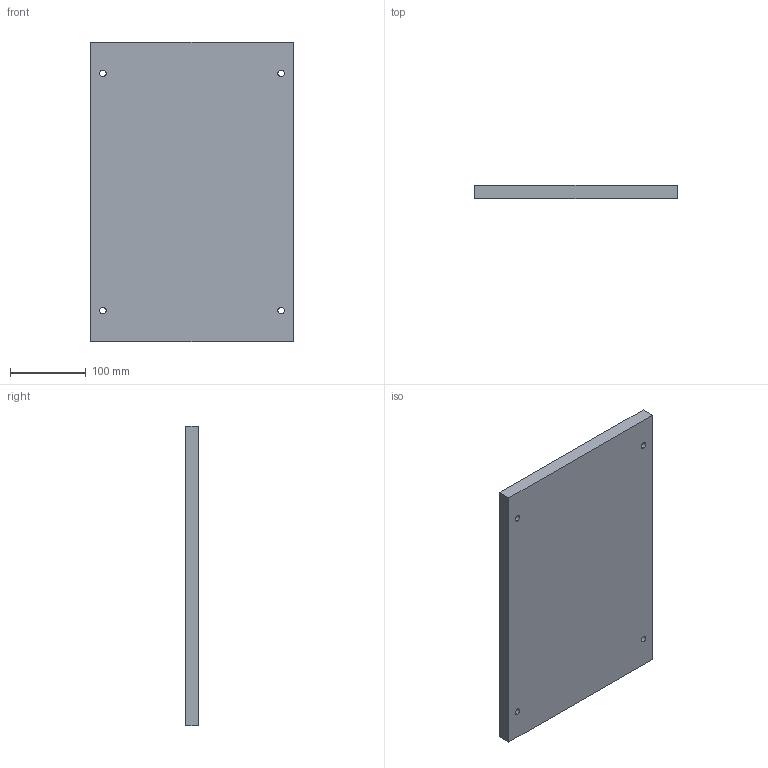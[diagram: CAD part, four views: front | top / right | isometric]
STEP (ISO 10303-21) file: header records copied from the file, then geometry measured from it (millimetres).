
FILE_DESCRIPTION (( 'STEP AP214' ), '1' );
FILE_NAME ('L55_396x396x017.STEP', '2018-10-08T17:23:18', ( '' ), ( '' ), 'SwSTEP 2.0', 'SolidWorks 2014', '' );
FILE_SCHEMA (( 'AUTOMOTIVE_DESIGN' ));
Length unit declared in the file: millimetre
Products named in the file (1): L55_396x396x017
Bounding box: 268 x 17 x 396 mm (x, y, z)
Volume: 1800317.3 mm3; surface area: 236193.9 mm2
Topology: 1 solids, 1 shells, 14 faces, 36 edges, 24 vertices
Faces by surface type: cylinder 8, plane 6
Entity records: 574 total; most frequent: DIRECTION 82, CARTESIAN_POINT 75, ORIENTED_EDGE 72, EDGE_CURVE 36, AXIS2_PLACEMENT_3D 31, VERTEX_POINT 24, EDGE_LOOP 22, VECTOR 20
